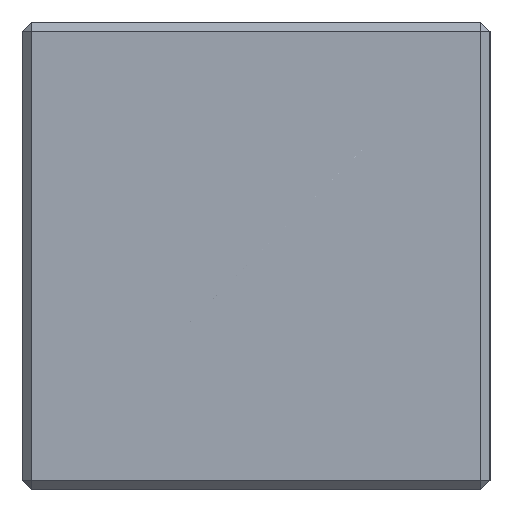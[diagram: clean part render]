
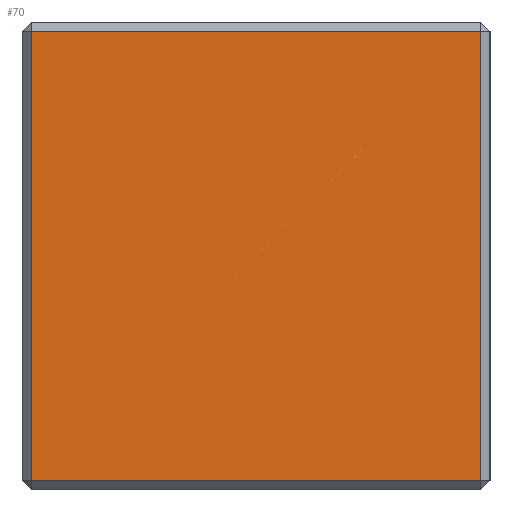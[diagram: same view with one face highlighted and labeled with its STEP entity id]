
A CAD part, left-side view. The second image highlights one B-rep face of the part: STEP entity #70.
In plain terms, the highlighted planar face has unit normal (-1, 0, 0).
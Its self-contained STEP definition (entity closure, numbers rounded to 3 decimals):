
#70 = ADVANCED_FACE ( 'NONE', ( #442 ), #441, .F. ) ;
#71 = EDGE_LOOP ( 'NONE', ( #72, #76, #79, #135 ) ) ;
#72 = ORIENTED_EDGE ( 'NONE', *, *, #73, .T. ) ;
#73 = EDGE_CURVE ( 'NONE', #74, #75, #439, .T. ) ;
#74 = VERTEX_POINT ( 'NONE', #432 ) ;
#75 = VERTEX_POINT ( 'NONE', #431 ) ;
#76 = ORIENTED_EDGE ( 'NONE', *, *, #77, .T. ) ;
#77 = EDGE_CURVE ( 'NONE', #75, #78, #430, .T. ) ;
#78 = VERTEX_POINT ( 'NONE', #426 ) ;
#79 = ORIENTED_EDGE ( 'NONE', *, *, #133, .T. ) ;
#133 = EDGE_CURVE ( 'NONE', #78, #134, #574, .T. ) ;
#134 = VERTEX_POINT ( 'NONE', #570 ) ;
#135 = ORIENTED_EDGE ( 'NONE', *, *, #136, .T. ) ;
#136 = EDGE_CURVE ( 'NONE', #134, #74, #569, .T. ) ;
#426 = CARTESIAN_POINT ( 'NONE',  ( -12.5, 0.4, 9.6 ) ) ;
#427 = DIRECTION ( 'NONE',  ( 0., 0., 1. ) ) ;
#428 = VECTOR ( 'NONE', #427, 1000. ) ;
#429 = CARTESIAN_POINT ( 'NONE',  ( -12.5, 0.4, -10. ) ) ;
#430 = LINE ( 'NONE', #429, #428 ) ;
#431 = CARTESIAN_POINT ( 'NONE',  ( -12.5, 0.4, -9.6 ) ) ;
#432 = CARTESIAN_POINT ( 'NONE',  ( -12.5, 19.6, -9.6 ) ) ;
#433 = DIRECTION ( 'NONE',  ( 0., -1., 0. ) ) ;
#434 = VECTOR ( 'NONE', #433, 1000. ) ;
#435 = CARTESIAN_POINT ( 'NONE',  ( -12.5, 20., -9.6 ) ) ;
#436 = DIRECTION ( 'NONE',  ( 0., 0., -1. ) ) ;
#437 = DIRECTION ( 'NONE',  ( 1., 0., 0. ) ) ;
#438 = CARTESIAN_POINT ( 'NONE',  ( -12.5, 20., -10. ) ) ;
#439 = LINE ( 'NONE', #435, #434 ) ;
#440 = AXIS2_PLACEMENT_3D ( 'NONE', #438, #437, #436 ) ;
#441 = PLANE ( 'NONE',  #440 ) ;
#442 = FACE_OUTER_BOUND ( 'NONE', #71, .T. ) ;
#566 = DIRECTION ( 'NONE',  ( 0., 0., -1. ) ) ;
#567 = VECTOR ( 'NONE', #566, 1000. ) ;
#568 = CARTESIAN_POINT ( 'NONE',  ( -12.5, 19.6, -10. ) ) ;
#569 = LINE ( 'NONE', #568, #567 ) ;
#570 = CARTESIAN_POINT ( 'NONE',  ( -12.5, 19.6, 9.6 ) ) ;
#571 = DIRECTION ( 'NONE',  ( 0., 1., 0. ) ) ;
#572 = VECTOR ( 'NONE', #571, 1000. ) ;
#573 = CARTESIAN_POINT ( 'NONE',  ( -12.5, 20., 9.6 ) ) ;
#574 = LINE ( 'NONE', #573, #572 ) ;
